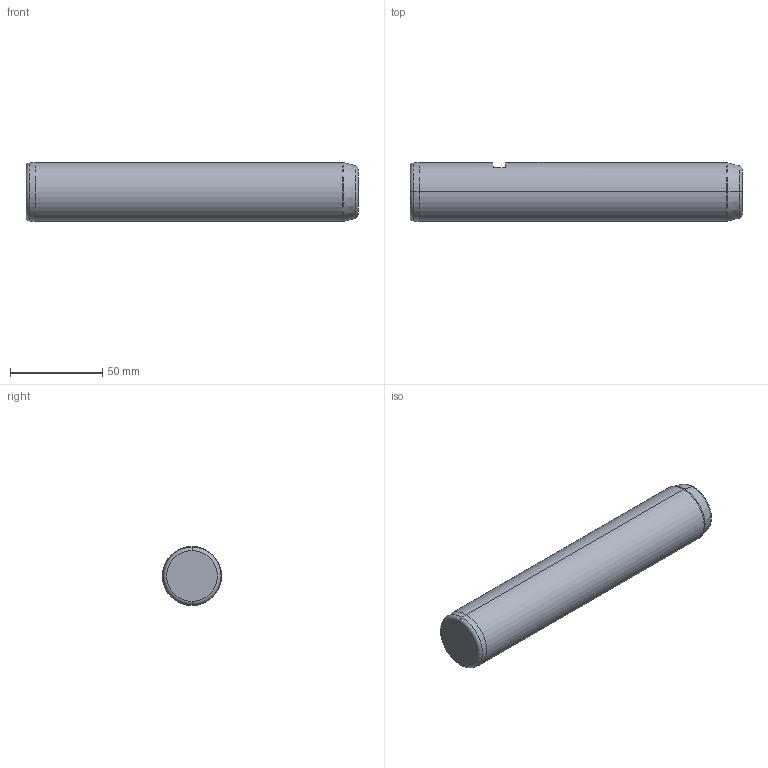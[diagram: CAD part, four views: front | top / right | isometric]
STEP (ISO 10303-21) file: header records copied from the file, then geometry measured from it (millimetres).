
FILE_DESCRIPTION (( 'STEP AP214' ), '1' );
FILE_NAME ('SP202-08-32-180.STEP', '2020-11-03T14:16:14', ( '' ), ( '' ), 'SwSTEP 2.0', 'SolidWorks 2018', '' );
FILE_SCHEMA (( 'AUTOMOTIVE_DESIGN' ));
Length unit declared in the file: millimetre
Products named in the file (1): SP202-08-32-180
Bounding box: 180 x 32 x 32 mm (x, y, z)
Volume: 139202.5 mm3; surface area: 20629.4 mm2
Topology: 1 solids, 1 shells, 26 faces, 54 edges, 31 vertices
Faces by surface type: cylinder 8, cone 6, torus 6, plane 6
Entity records: 748 total; most frequent: CARTESIAN_POINT 154, DIRECTION 132, ORIENTED_EDGE 104, AXIS2_PLACEMENT_3D 57, EDGE_CURVE 52, VERTEX_POINT 31, CIRCLE 30, EDGE_LOOP 29
